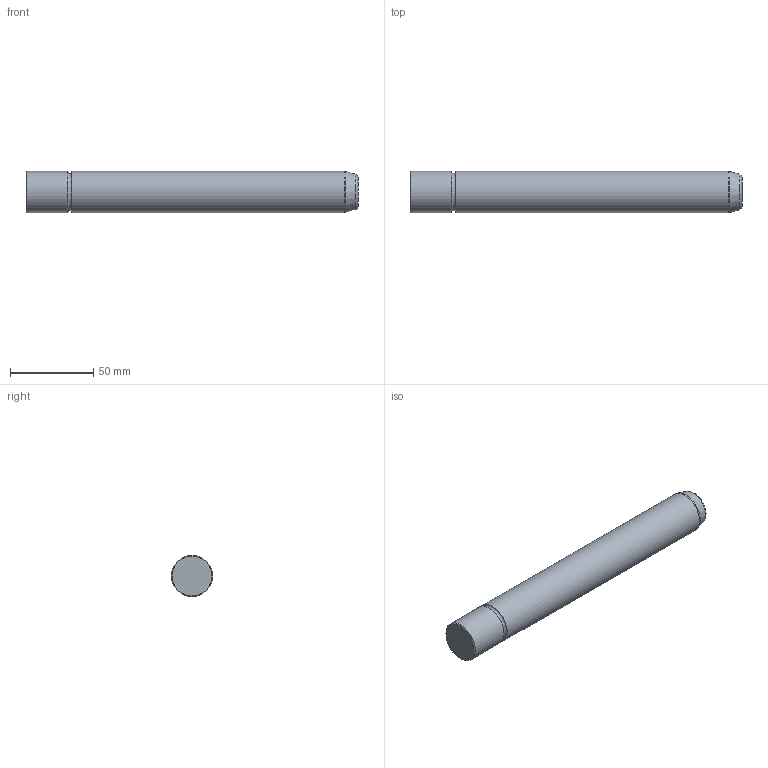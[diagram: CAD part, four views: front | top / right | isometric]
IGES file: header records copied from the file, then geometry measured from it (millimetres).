
Global section: file name: CS25200.ipt; native system: Autodesk Inventor 2021; preprocessor: unknown; author: SM; date: 20211220.135817; units: millimetre
Bounding box: 200 x 25 x 25 mm (x, y, z)
Volume: 97286.4 mm3; surface area: 16546.1 mm2
Topology: 1 solids, 1 shells, 9 faces, 21 edges, 14 vertices
Faces by surface type: revolution 3, cone 2, cylinder 2, plane 2
Full cylindrical faces by diameter (mm): 25 x2
